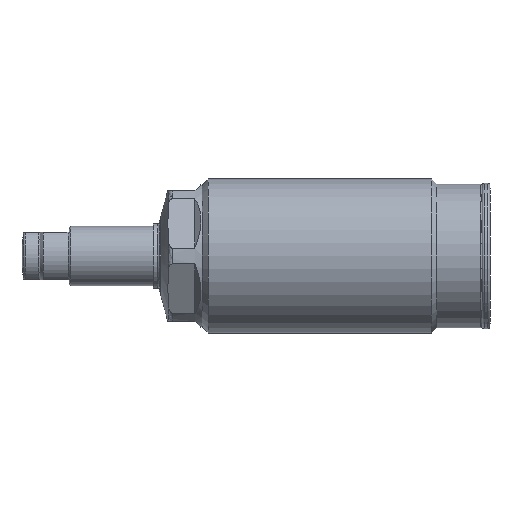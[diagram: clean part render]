
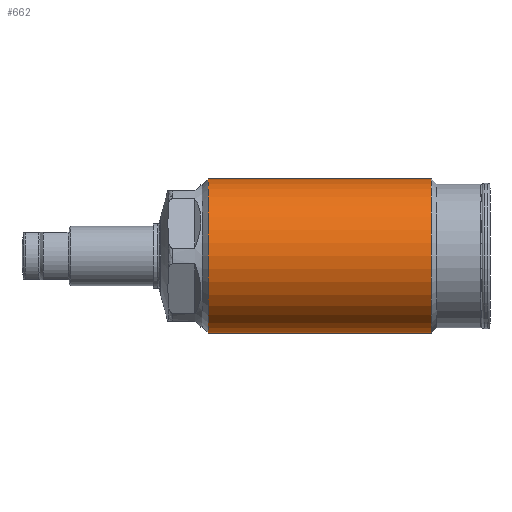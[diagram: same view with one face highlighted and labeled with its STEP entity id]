
A CAD part, left-side view. The second image highlights one B-rep face of the part: STEP entity #662.
In plain terms, the highlighted cylindrical face has radius 13 mm (diameter 26 mm), a partial arc.
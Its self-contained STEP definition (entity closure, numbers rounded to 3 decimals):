
#298=CYLINDRICAL_SURFACE('',#2997,13.);
#382=LINE('',#4474,#484);
#383=LINE('',#4475,#485);
#484=VECTOR('',#3475,1.);
#485=VECTOR('',#3476,1.);
#662=ADVANCED_FACE('',(#888),#298,.T.);
#888=FACE_OUTER_BOUND('',#1063,.T.);
#1063=EDGE_LOOP('',(#1623,#1624,#1625,#1626));
#1623=ORIENTED_EDGE('',*,*,#2249,.F.);
#1624=ORIENTED_EDGE('',*,*,#2388,.T.);
#1625=ORIENTED_EDGE('',*,*,#2250,.T.);
#1626=ORIENTED_EDGE('',*,*,#2389,.F.);
#1974=VERTEX_POINT('',#4466);
#1975=VERTEX_POINT('',#4468);
#1976=VERTEX_POINT('',#4472);
#1977=VERTEX_POINT('',#4473);
#2249=EDGE_CURVE('',#1977,#1975,#382,.T.);
#2250=EDGE_CURVE('',#1976,#1974,#383,.T.);
#2388=EDGE_CURVE('',#1977,#1976,#2652,.T.);
#2389=EDGE_CURVE('',#1975,#1974,#2653,.T.);
#2652=CIRCLE('',#2994,13.);
#2653=CIRCLE('',#2996,13.);
#2994=AXIS2_PLACEMENT_3D('',#5011,#3763,#3764);
#2996=AXIS2_PLACEMENT_3D('',#5013,#3767,#3768);
#2997=AXIS2_PLACEMENT_3D('',#5014,#3769,#3770);
#3475=DIRECTION('',(0.,1.,0.));
#3476=DIRECTION('',(0.,1.,0.));
#3763=DIRECTION('',(0.,1.,0.));
#3764=DIRECTION('',(0.,0.,1.));
#3767=DIRECTION('',(0.,1.,0.));
#3768=DIRECTION('',(0.,0.,1.));
#3769=DIRECTION('',(0.,1.,0.));
#3770=DIRECTION('',(0.,0.,-1.));
#4466=CARTESIAN_POINT('',(23.997,67.935,13.));
#4468=CARTESIAN_POINT('',(23.997,67.935,-13.));
#4472=CARTESIAN_POINT('',(23.997,30.235,13.));
#4473=CARTESIAN_POINT('',(23.997,30.235,-13.));
#4474=CARTESIAN_POINT('',(23.997,93.333,-13.));
#4475=CARTESIAN_POINT('',(23.997,93.333,13.));
#5011=CARTESIAN_POINT('',(23.997,30.235,0.));
#5013=CARTESIAN_POINT('',(23.997,67.935,0.));
#5014=CARTESIAN_POINT('',(23.997,93.333,0.));
